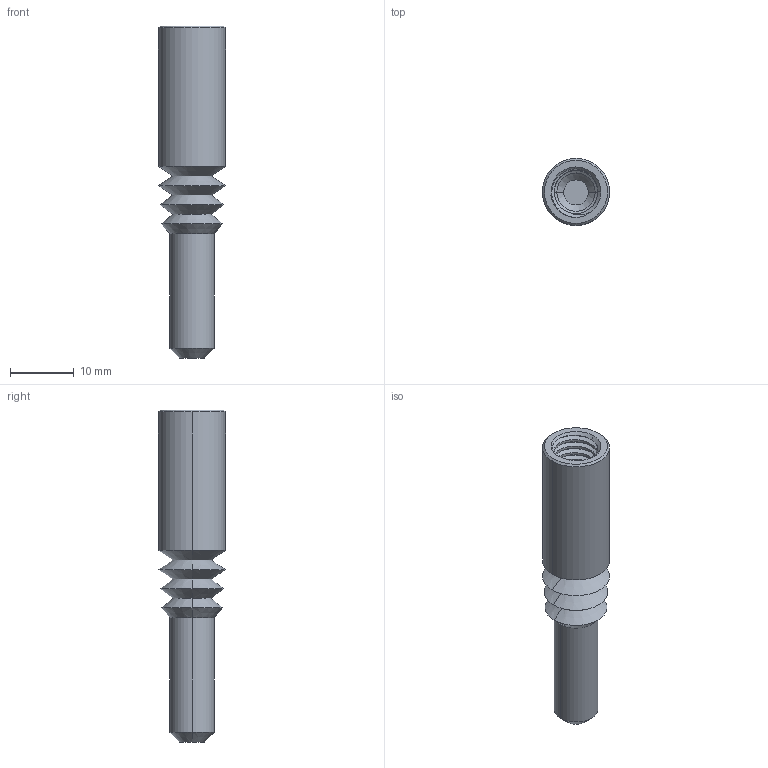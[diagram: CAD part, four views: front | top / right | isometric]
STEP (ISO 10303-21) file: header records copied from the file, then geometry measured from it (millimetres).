
FILE_DESCRIPTION (( 'STEP AP203' ), '1' );
FILE_NAME ('11.03.660 Steel Dowel Fuerte Female.STEP', '2023-02-22T10:12:46', ( '' ), ( '' ), 'SwSTEP 2.0', 'SolidWorks 2022', '' );
FILE_SCHEMA (( 'CONFIG_CONTROL_DESIGN' ));
Length unit declared in the file: millimetre
Products named in the file (1): 11.03.660 Steel Dowel Fuerte Female
Bounding box: 10.5 x 10.5 x 52 mm (x, y, z)
Surface area: 2111.4 mm2 (no closed solid volume)
Topology: 0 solids, 1 shells, 96 faces, 266 edges, 171 vertices
Faces by surface type: cylinder 72, cone 21, plane 2, bspline 1
Entity records: 4876 total; most frequent: CARTESIAN_POINT 2799, ORIENTED_EDGE 455, DIRECTION 359, EDGE_CURVE 266, VERTEX_POINT 171, AXIS2_PLACEMENT_3D 134, EDGE_LOOP 97, ADVANCED_FACE 96
